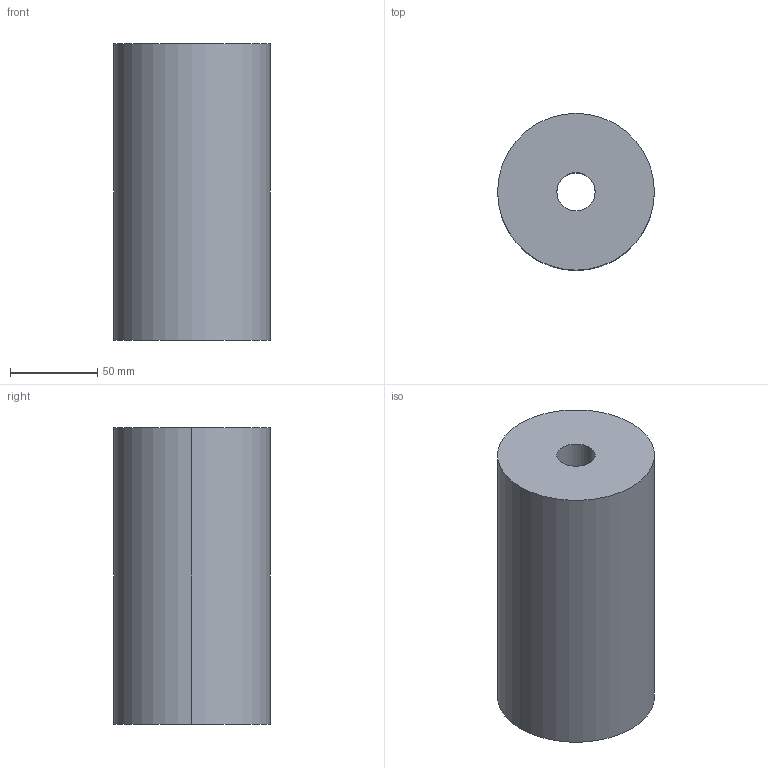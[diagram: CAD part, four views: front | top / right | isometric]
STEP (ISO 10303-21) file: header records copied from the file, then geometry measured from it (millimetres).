
FILE_DESCRIPTION(/* description */ (''),/* implementation_level */ '2;1');
FILE_NAME(/* name */ '3d_e90-170_03710_r00.stp',/* time_stamp */ '2011-01-10T14:15:49+09:00',/* author */ ('MISUMI'),/* organization */ (''),/* preprocessor_version */ 'ST-DEVELOPER v11',/* originating_system */ 'UGS - NX 5.0',/* authorisation */ '');
FILE_SCHEMA (('CONFIG_CONTROL_DESIGN'));
Length unit declared in the file: millimetre
Products named in the file (1): 3d_e90-170_03710_r00
Bounding box: 90 x 90 x 170 mm (x, y, z)
Volume: 1016870.7 mm3; surface area: 71779.1 mm2
Topology: 1 solids, 1 shells, 6 faces, 12 edges, 8 vertices
Faces by surface type: cylinder 4, plane 2
Entity records: 254 total; most frequent: DIRECTION 34, CARTESIAN_POINT 27, ORIENTED_EDGE 24, AXIS2_PLACEMENT_3D 15, EDGE_CURVE 12, EDGE_LOOP 8, VERTEX_POINT 8, CIRCLE 8
